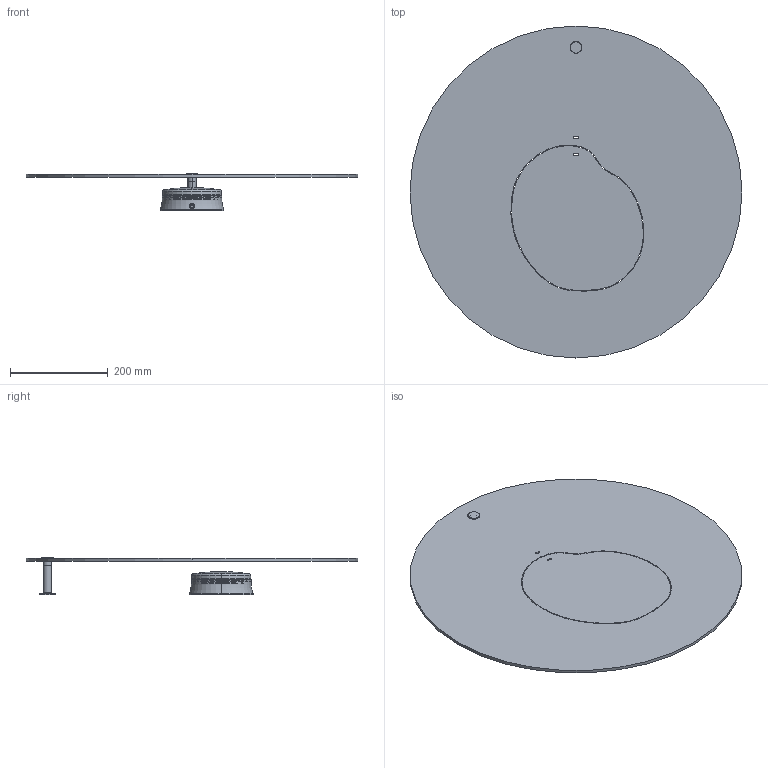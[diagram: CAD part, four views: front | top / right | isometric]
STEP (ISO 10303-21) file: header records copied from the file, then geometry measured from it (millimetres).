
FILE_DESCRIPTION (( 'STEP AP214' ), '1' );
FILE_NAME ('306_GRANDE _W_LD_3D.STEP', '2021-05-24T13:00:00', ( '' ), ( '' ), 'SwSTEP 2.0', 'SolidWorks 2021', '' );
FILE_SCHEMA (( 'AUTOMOTIVE_DESIGN' ));
Length unit declared in the file: millimetre
Products named in the file (1): 306_GRANDE _W_LD_3D
Bounding box: 680 x 680 x 77 mm (x, y, z)
Volume: 2407172.9 mm3; surface area: 842066.3 mm2
Topology: 6 solids, 6 shells, 207 faces, 482 edges, 291 vertices
Faces by surface type: cylinder 80, cone 47, torus 37, plane 33, bspline 10
Entity records: 10021 total; most frequent: CARTESIAN_POINT 2829, DIRECTION 1082, ORIENTED_EDGE 948, EDGE_CURVE 474, AXIS2_PLACEMENT_3D 463, VERTEX_POINT 291, CIRCLE 265, EDGE_LOOP 257
